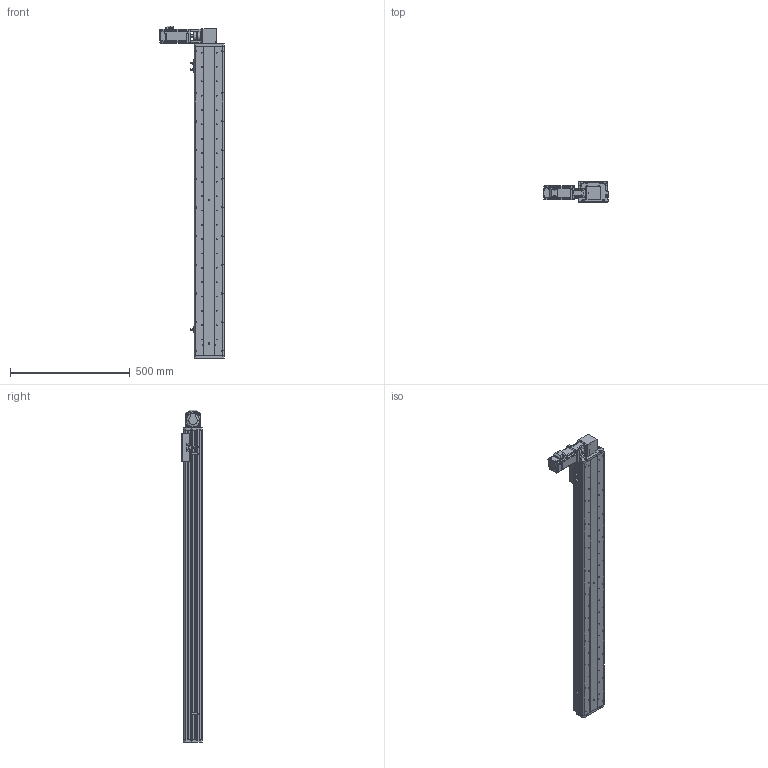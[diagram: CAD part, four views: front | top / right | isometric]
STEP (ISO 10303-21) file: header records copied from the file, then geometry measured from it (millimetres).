
FILE_DESCRIPTION (( 'STEP AP214' ), '1' );
FILE_NAME ('KSD125B-S1100-MRT-CM.STEP', '2017-08-07T07:37:52', ( '微软用户' ), ( '微软中国' ), 'SwSTEP 2.0', 'SolidWorks 2014', '' );
FILE_SCHEMA (( 'AUTOMOTIVE_DESIGN' ));
Length unit declared in the file: millimetre
Products named in the file (16): KSD125模组同步带-防撞垫2; CS-34X32-10X14; 100遵鎮湛假蚾啣1 ; 覜茼え68遵圉猾敕; U倰嫖萇假蚾璃; U倰嫖萇EEㄜSX672; KSD125模组同步带-防撞垫1; 100宽安装板同步带带电机座400W,86; 100宽马达安装板同步带右; 前端板-125宽模组同步带; 125模组同步带-尾端板1; KSD125模组同步带-滑动座1; KSD125B-S1100-MRT-CM; KSD125模组1100行程同步带-防尘盖; 125模组1100行程同步带-底板; MHMD042G1CA_2_03
Assembly tree (19 placements, depth 2):
  KSD125B-S1100-MRT-CM
    KSD125模组同步带-滑动座1
    125模组同步带-尾端板1
    前端板-125宽模组同步带
    100宽马达安装板同步带右
    100宽安装板同步带带电机座400W,86
    KSD125模组同步带-防撞垫1
    U倰嫖萇EEㄜSX672  x3
    U倰嫖萇假蚾璃  x3
    覜茼え68遵圉猾敕
    100遵鎮湛假蚾啣1 
    CS-34X32-10X14
    KSD125模组同步带-防撞垫2
    MHMD042G1CA_2_03
    125模组1100行程同步带-底板
    KSD125模组1100行程同步带-防尘盖
Bounding box: 269 x 86 x 1389 mm (x, y, z)
Volume: 4176639.9 mm3; surface area: 1371935.8 mm2
Topology: 18 solids, 21 shells, 1732 faces, 4972 edges, 3280 vertices
Faces by surface type: cylinder 921, plane 708, cone 81, bspline 22
Entity records: 61176 total; most frequent: CARTESIAN_POINT 12338, DIRECTION 8963, ORIENTED_EDGE 8464, EDGE_CURVE 4310, AXIS2_PLACEMENT_3D 3345, VERTEX_POINT 2872, VECTOR 2273, LINE 2273
